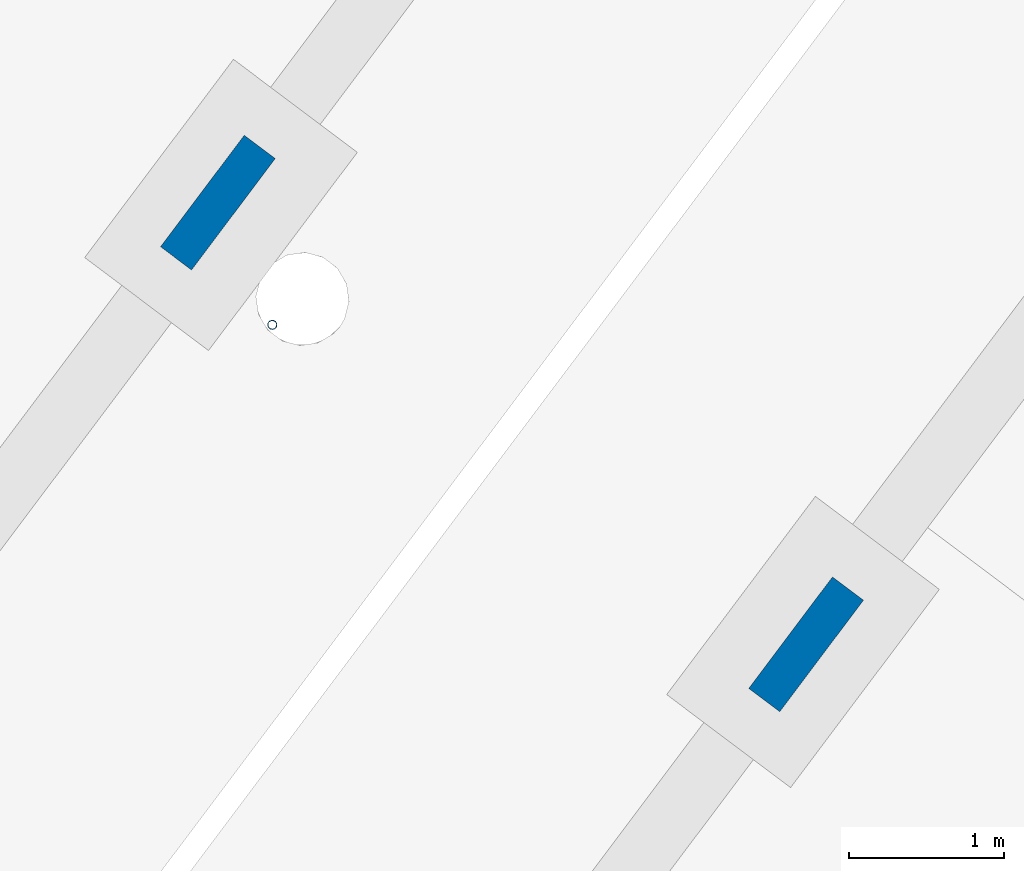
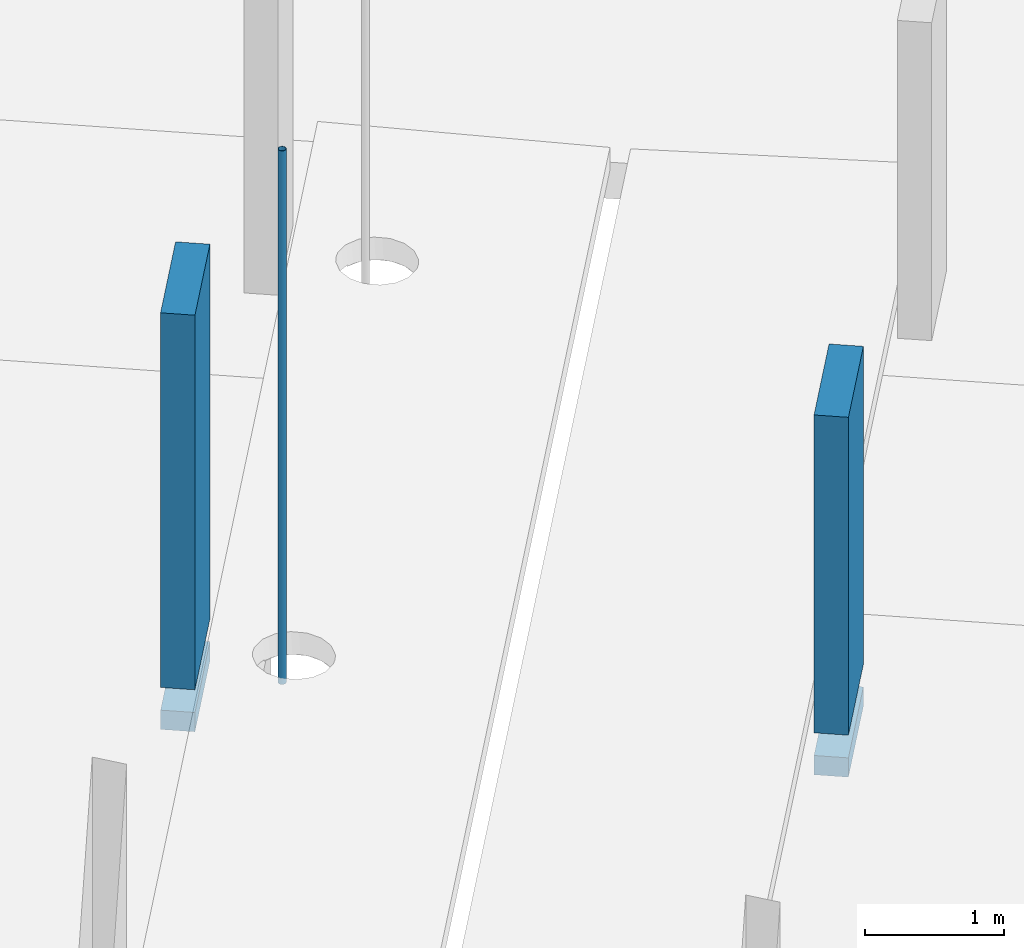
# One storey, part 13 of 24: 3 columns.
"""IFC2X3 building model written with IfcOpenShell, lengths in metres."""

from ifc_helpers import new_model, entity, si_unit, converted_unit, derived_unit, direction, frame, frame_2d, origin, origin_2d_with_axis, place, context, subcontext, project, spatial, rectangle, hollow_circle, extrude, source, transform, mapped, material, type_object, type_shapes, element, save


model = new_model("IFC2X3")

# Units and contexts
model_context = context("Model", 3, precision=1e-05, world=origin(), true_north=direction((6.123031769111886e-17, 1.0)))
body_context = subcontext(model_context, "Body", "Model", "MODEL_VIEW")
ifc_project = project(units=[si_unit("LENGTHUNIT", "METRE"), si_unit("AREAUNIT", "SQUARE_METRE"), si_unit("VOLUMEUNIT", "CUBIC_METRE"), converted_unit("PLANEANGLEUNIT", "DEGREE", entity("IfcRatioMeasure", 0.017453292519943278), si_unit("PLANEANGLEUNIT", "RADIAN"), dimensions=[0, 0, 0, 0, 0, 0, 0]), si_unit("MASSUNIT", "GRAM", prefix="KILO"), derived_unit("MASSDENSITYUNIT", [(si_unit("MASSUNIT", "GRAM", prefix="KILO"), 1), (si_unit("LENGTHUNIT", "METRE"), -3)]), derived_unit("IONCONCENTRATIONUNIT", [(si_unit("MASSUNIT", "GRAM", prefix="KILO"), 1), (si_unit("LENGTHUNIT", "METRE"), -3)]), derived_unit("MOMENTOFINERTIAUNIT", [(si_unit("LENGTHUNIT", "METRE"), 4)]), si_unit("TIMEUNIT", "SECOND"), si_unit("FREQUENCYUNIT", "HERTZ"), si_unit("THERMODYNAMICTEMPERATUREUNIT", "DEGREE_CELSIUS"), derived_unit("THERMALTRANSMITTANCEUNIT", [(si_unit("MASSUNIT", "GRAM", prefix="KILO"), 1), (si_unit("THERMODYNAMICTEMPERATUREUNIT", "KELVIN"), -1), (si_unit("TIMEUNIT", "SECOND"), -3)]), derived_unit("THERMALCONDUCTANCEUNIT", [(si_unit("MASSUNIT", "GRAM", prefix="KILO"), 1), (si_unit("THERMODYNAMICTEMPERATUREUNIT", "KELVIN"), -1), (si_unit("TIMEUNIT", "SECOND"), -3), (si_unit("LENGTHUNIT", "METRE"), 1)]), derived_unit("VOLUMETRICFLOWRATEUNIT", [(si_unit("LENGTHUNIT", "METRE"), 3), (si_unit("TIMEUNIT", "SECOND"), -1)]), derived_unit("MASSFLOWRATEUNIT", [(si_unit("MASSUNIT", "GRAM", prefix="KILO"), 1), (si_unit("TIMEUNIT", "SECOND"), -1)]), derived_unit("ROTATIONALFREQUENCYUNIT", [(si_unit("TIMEUNIT", "SECOND"), -1)]), si_unit("ELECTRICCURRENTUNIT", "AMPERE"), si_unit("ELECTRICVOLTAGEUNIT", "VOLT"), si_unit("POWERUNIT", "WATT"), si_unit("FORCEUNIT", "NEWTON", prefix="KILO"), si_unit("ILLUMINANCEUNIT", "LUX"), si_unit("LUMINOUSFLUXUNIT", "LUMEN"), si_unit("LUMINOUSINTENSITYUNIT", "CANDELA"), derived_unit("USERDEFINED", [(si_unit("MASSUNIT", "GRAM", prefix="KILO"), -1), (si_unit("LENGTHUNIT", "METRE"), -2), (si_unit("TIMEUNIT", "SECOND"), 3), (si_unit("LUMINOUSFLUXUNIT", "LUMEN"), 1)]), derived_unit("USERDEFINED", [(si_unit("MASSUNIT", "GRAM", prefix="KILO"), 1), (si_unit("TIMEUNIT", "SECOND"), -3), (si_unit("LENGTHUNIT", "METRE"), 3), (si_unit("ELECTRICCURRENTUNIT", "AMPERE"), -2)]), derived_unit("SOUNDPOWERUNIT", [(si_unit("MASSUNIT", "GRAM", prefix="KILO"), 1), (si_unit("TIMEUNIT", "SECOND"), -3), (si_unit("LENGTHUNIT", "METRE"), 2)]), derived_unit("SOUNDPRESSUREUNIT", [(si_unit("MASSUNIT", "GRAM", prefix="KILO"), 1), (si_unit("LENGTHUNIT", "METRE"), -1), (si_unit("TIMEUNIT", "SECOND"), -2)]), derived_unit("LINEARVELOCITYUNIT", [(si_unit("LENGTHUNIT", "METRE"), 1), (si_unit("TIMEUNIT", "SECOND"), -1)]), si_unit("PRESSUREUNIT", "PASCAL"), derived_unit("USERDEFINED", [(si_unit("MASSUNIT", "GRAM", prefix="KILO"), 1), (si_unit("LENGTHUNIT", "METRE"), -2), (si_unit("TIMEUNIT", "SECOND"), -2)]), derived_unit("LINEARFORCEUNIT", [(si_unit("MASSUNIT", "GRAM", prefix="KILO"), 1), (si_unit("TIMEUNIT", "SECOND"), -2)]), derived_unit("PLANARFORCEUNIT", [(si_unit("MASSUNIT", "GRAM", prefix="KILO"), 1), (si_unit("LENGTHUNIT", "METRE"), -1), (si_unit("TIMEUNIT", "SECOND"), -2)]), derived_unit("SPECIFICHEATCAPACITYUNIT", [(si_unit("THERMODYNAMICTEMPERATUREUNIT", "KELVIN"), -1), (si_unit("LENGTHUNIT", "METRE"), 2), (si_unit("TIMEUNIT", "SECOND"), -2)]), derived_unit("HEATINGVALUEUNIT", [(si_unit("LENGTHUNIT", "METRE"), 2), (si_unit("TIMEUNIT", "SECOND"), -2)]), derived_unit("VAPORPERMEABILITYUNIT", [(si_unit("LENGTHUNIT", "METRE"), -1), (si_unit("TIMEUNIT", "SECOND"), 1)]), derived_unit("DYNAMICVISCOSITYUNIT", [(si_unit("MASSUNIT", "GRAM", prefix="KILO"), 1), (si_unit("TIMEUNIT", "SECOND"), -1), (si_unit("LENGTHUNIT", "METRE"), -1)]), derived_unit("THERMALEXPANSIONCOEFFICIENTUNIT", [(si_unit("THERMODYNAMICTEMPERATUREUNIT", "KELVIN"), -1)]), derived_unit("MODULUSOFELASTICITYUNIT", [(si_unit("MASSUNIT", "GRAM", prefix="KILO"), 1), (si_unit("LENGTHUNIT", "METRE"), -1), (si_unit("TIMEUNIT", "SECOND"), -2)]), derived_unit("ISOTHERMALMOISTURECAPACITYUNIT", [(si_unit("LENGTHUNIT", "METRE"), 3), (si_unit("MASSUNIT", "GRAM", prefix="KILO"), -1)]), derived_unit("MOISTUREDIFFUSIVITYUNIT", [(si_unit("TIMEUNIT", "SECOND"), -1), (si_unit("LENGTHUNIT", "METRE"), 2)])], contexts=[model_context])

# Site, building, storey
site_placement = place(None, origin())
site = spatial("IfcSite", under=ifc_project, at=site_placement, Name="Default", CompositionType="ELEMENT")
building_placement = place(site_placement, frame((0.0, 0.0, 235.0), z_axis=(0.0, 0.0, 1.0), x_axis=(-0.7996477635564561, 0.6004693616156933, 0.0)))
building = spatial("IfcBuilding", under=site, at=building_placement, CompositionType="ELEMENT")
storey_placement = place(building_placement, origin())
storey = spatial("IfcBuildingStorey", under=building, at=storey_placement, Name="P0- Escola", CompositionType="ELEMENT", Elevation=0.0)

# Columns
ifc_material_1 = material(Name="_Formigó- T1- STR")
column_type_1 = type_object("IfcColumnType", Name="STR- P- Formigó- Rectangular- T1:25x90cm", PredefinedType="COLUMN", material=ifc_material_1)
shared_shape_1 = source(origin(), body_context, "Body", "SweptSolid", [
    extrude(rectangle(XDim=0.899999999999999, YDim=0.2499999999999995, at=origin_2d_with_axis()), frame((23.77014768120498, -29.91519175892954, -0.57), z_axis=(0.0, 0.0, 1.0), x_axis=(0.0, -1.0, 0.0)), (0.0, 0.0, 1.0), 0.16999999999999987),
    extrude(rectangle(XDim=0.899999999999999, YDim=0.2499999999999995, at=origin_2d_with_axis()), frame((23.77014768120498, -29.91519175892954, -0.2), z_axis=(0.0, 0.0, 1.0), x_axis=(0.0, -1.0, 0.0)), (0.0, 0.0, 1.0), 2.8000000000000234),
])
type_shapes(column_type_1, [shared_shape_1])
column_1_placement = place(storey_placement, origin())
element("IfcColumn", 1, at=column_1_placement, inside=storey, type_object=column_type_1, material=ifc_material_1, Name="STR- P- Formigó- Rectangular- T1:25x90cm", ObjectType="STR- P- Formigó- Rectangular- T1:25x90cm", context=body_context, shape_type="MappedRepresentation", body=[
    mapped(shared_shape_1, transform((0.0, 0.0, 0.0), scale=1.0)),
])
column_type_2 = type_object("IfcColumnType", Name="STR- P- Formigó- Rectangular- T1:25x90cm", PredefinedType="COLUMN", material=ifc_material_1)
shared_shape_2 = source(origin(), body_context, "Body", "SweptSolid", [
    extrude(rectangle(XDim=0.899999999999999, YDim=0.2499999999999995, at=frame_2d((0.0, 4.336808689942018e-15), x_axis=(1.0, 0.0))), frame((28.520147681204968, -29.91519175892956, -0.57), z_axis=(0.0, 0.0, 1.0), x_axis=(0.0, -1.0, 0.0)), (0.0, 0.0, 1.0), 0.16999999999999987),
    extrude(rectangle(XDim=0.899999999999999, YDim=0.2499999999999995, at=frame_2d((0.0, 4.336808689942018e-15), x_axis=(1.0, 0.0))), frame((28.520147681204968, -29.91519175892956, -0.2), z_axis=(0.0, 0.0, 1.0), x_axis=(0.0, -1.0, 0.0)), (0.0, 0.0, 1.0), 3.3000000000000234),
])
type_shapes(column_type_2, [shared_shape_2])
column_2_placement = place(storey_placement, origin())
element("IfcColumn", 2, at=column_2_placement, inside=storey, type_object=column_type_2, material=ifc_material_1, Name="STR- P- Formigó- Rectangular- T1:25x90cm", ObjectType="STR- P- Formigó- Rectangular- T1:25x90cm", context=body_context, shape_type="MappedRepresentation", body=[
    mapped(shared_shape_2, transform((0.0, 0.0, 0.0), scale=1.0)),
])
ifc_material_2 = material(Name="Metal - Acero - 345 MPa")
column_type_3 = type_object("IfcColumnType", Name="STR- P- Acer- CHS- Circular- T1:60.3 x 3CHS", PredefinedType="COLUMN", material=ifc_material_2)
shared_shape_3 = source(origin(), body_context, "Body", "SweptSolid", [
    extrude(hollow_circle(Radius=0.03014999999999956, WallThickness=0.0029999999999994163, at=frame_2d((-4.81877898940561e-19, 4.854464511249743e-17), x_axis=(1.0, 0.0))), frame((0.0, 0.0, -0.1)), (0.0, 0.0, 1.0), 4.700000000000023),
])
type_shapes(column_type_3, [shared_shape_3])
column_3_placement = place(storey_placement, frame((27.765147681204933, -29.495191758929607, 0.0)))
element("IfcColumn", 3, at=column_3_placement, inside=storey, type_object=column_type_3, material=ifc_material_2, Name="STR- P- Acer- CHS- Circular- T1:60.3 x 3CHS", ObjectType="STR- P- Acer- CHS- Circular- T1:60.3 x 3CHS", context=body_context, shape_type="MappedRepresentation", body=[
    mapped(shared_shape_3, transform((0.0, 0.0, 0.0), scale=1.0)),
])

save(model, "model.ifc")
